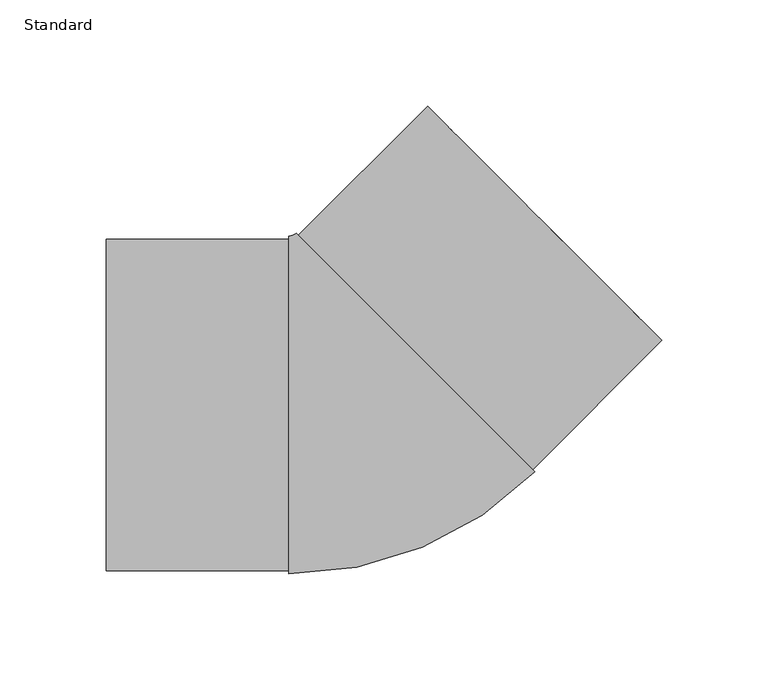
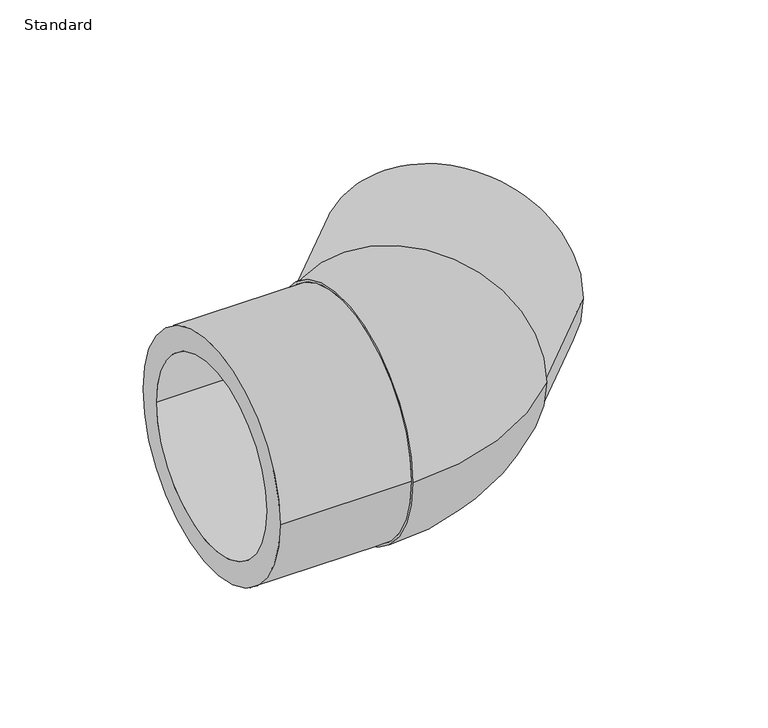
"""IFC4 building model written with IfcOpenShell, lengths in millimetres: pipe fitting geometry, EGB_VASEN_ PPR_Codo a tope 90 WXRB200_Codo a tope 45 WXRB220 : Standard."""

from ifc_helpers import new_model, si_unit, point, frame, origin, place, context, project, spatial, polyline, circle_curve, ellipse_curve, trimmed, source, transform, mapped, element, save
from ifc_brep_helpers import plane_surface, cylinder_surface, revolved_surface, advanced_brep


def standard_db44c1cc(model_context):
    return source(origin(), model_context, "Body", "AdvancedBrep", [
        advanced_brep(
        [(-121.0, -78.0, 0.0), (-121.0, 78.0, 0.0), (-121.0, -62.5, 0.0), (-121.0, 62.5, 0.0), (-34.9299782, -78.0, 0.0), (-34.9299782, 78.0, 0.0), (-34.9299782, -62.5, 0.0), (-34.9299782, 62.5, 0.0), (-34.9299782, -79.5, 0.0), (-34.9299782, 79.5, 0.0), (80.9142136, -31.5157646, 0.0), (-31.5157646, 80.9142136, 0.0), (79.8535534, -30.4551045, 0.0), (-30.4551045, 79.8535534, 0.0), (68.8933983, -19.4949494, 0.0), (-19.4949494, 68.8933983, 0.0), (140.7142495, 30.4055916, 0.0), (30.4055916, 140.7142495, 0.0), (129.7540943, 41.3657467, 0.0), (41.3657467, 129.7540943, 0.0)],
        [
            (0, 1, circle_curve(frame((-121.0, 0.0, 0.0), z_axis=(-1.0, 0.0, 0.0), x_axis=(0.0, 1.0, 0.0)), 78.0)),
            (1, 0, circle_curve(frame((-121.0, 0.0, 0.0), z_axis=(-1.0, 0.0, 0.0), x_axis=(0.0, 1.0, 0.0)), 78.0)),
            (2, 3, circle_curve(frame((-121.0, 0.0, 0.0), z_axis=(1.0, 0.0, 0.0), x_axis=(0.0, 1.0, 0.0)), 62.5)),
            (3, 2, circle_curve(frame((-121.0, 0.0, 0.0), z_axis=(1.0, 0.0, 0.0), x_axis=(0.0, 1.0, 0.0)), 62.5)),
            (0, 4),
            (4, 5, circle_curve(frame((-34.9299782, 0.0, 0.0), z_axis=(-1.0, 0.0, 0.0), x_axis=(0.0, 1.0, 0.0)), 78.0)),
            (5, 1),
            (5, 4, circle_curve(frame((-34.9299782, 0.0, 0.0), z_axis=(-1.0, 0.0, 0.0), x_axis=(0.0, 1.0, 0.0)), 78.0)),
            (2, 6),
            (6, 7, circle_curve(frame((-34.9299782, 0.0, 0.0), z_axis=(1.0, 0.0, 0.0), x_axis=(0.0, 1.0, 0.0)), 62.5)),
            (7, 3),
            (7, 6, circle_curve(frame((-34.9299782, 0.0, 0.0), z_axis=(1.0, 0.0, 0.0), x_axis=(0.0, 1.0, 0.0)), 62.5)),
            (8, 9, circle_curve(frame((-34.9299782, 0.0, 0.0), z_axis=(-1.0, 0.0, 0.0), x_axis=(0.0, 1.0, 0.0)), 79.5)),
            (9, 8, circle_curve(frame((-34.9299782, 0.0, 0.0), z_axis=(-1.0, 0.0, 0.0), x_axis=(0.0, 1.0, 0.0)), 79.5)),
            (10, 11, circle_curve(frame((24.6992245, 24.6992245, 0.0), z_axis=(0.7071067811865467, 0.7071067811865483, 0.0), x_axis=(-0.7071067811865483, 0.7071067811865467, 0.0)), 79.5)),
            (11, 10, circle_curve(frame((24.6992245, 24.6992245, 0.0), z_axis=(0.7071067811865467, 0.7071067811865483, 0.0), x_axis=(-0.7071067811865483, 0.7071067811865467, 0.0)), 79.5)),
            (12, 13, circle_curve(frame((24.6992245, 24.6992245, 0.0), z_axis=(-0.7071067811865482, -0.7071067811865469, 0.0), x_axis=(-0.7071067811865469, 0.7071067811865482, 0.0)), 78.0)),
            (13, 12, circle_curve(frame((24.6992245, 24.6992245, 0.0), z_axis=(-0.7071067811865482, -0.7071067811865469, 0.0), x_axis=(-0.7071067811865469, 0.7071067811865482, 0.0)), 78.0)),
            (14, 15, circle_curve(frame((24.6992245, 24.6992245, 0.0), z_axis=(0.7071067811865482, 0.7071067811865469, 0.0), x_axis=(-0.7071067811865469, 0.7071067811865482, 0.0)), 62.5)),
            (15, 14, circle_curve(frame((24.6992245, 24.6992245, 0.0), z_axis=(0.7071067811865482, 0.7071067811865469, 0.0), x_axis=(-0.7071067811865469, 0.7071067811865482, 0.0)), 62.5)),
            (8, 10, circle_curve(frame((-34.9299782, 84.3284271, 0.0), z_axis=(0.0, 0.0, 1.0), x_axis=(0.0, -1.0, 0.0)), 163.8284271)),
            (11, 9, circle_curve(frame((-34.9299782, 84.3284271, 0.0), z_axis=(0.0, 0.0, -1.0), x_axis=(0.0, -1.0, 0.0)), 4.8284271)),
            (16, 17, circle_curve(frame((85.5599205, 85.5599205, 0.0), z_axis=(0.7071067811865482, 0.7071067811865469, 0.0), x_axis=(-0.7071067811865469, 0.7071067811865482, 0.0)), 78.0)),
            (17, 16, circle_curve(frame((85.5599205, 85.5599205, 0.0), z_axis=(0.7071067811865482, 0.7071067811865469, 0.0), x_axis=(-0.7071067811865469, 0.7071067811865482, 0.0)), 78.0)),
            (18, 19, circle_curve(frame((85.5599205, 85.5599205, 0.0), z_axis=(-0.7071067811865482, -0.7071067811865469, 0.0), x_axis=(-0.7071067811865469, 0.7071067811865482, 0.0)), 62.5)),
            (19, 18, circle_curve(frame((85.5599205, 85.5599205, 0.0), z_axis=(-0.7071067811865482, -0.7071067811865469, 0.0), x_axis=(-0.7071067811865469, 0.7071067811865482, 0.0)), 62.5)),
            (17, 13),
            (12, 16),
            (19, 15),
            (14, 18),
        ],
        [
            plane_surface(frame((-121.0, 0.0, 0.0), z_axis=(-1.0, 0.0, 0.0), x_axis=(0.0, 0.0, 1.0))),
            cylinder_surface(frame((-121.0, 0.0, 0.0), z_axis=(-1.0, 0.0, 0.0), x_axis=(0.0, 1.0, 0.0)), 78.0),
            revolved_surface(polyline([(-34.929978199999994, 62.5, 0.0), (-121.0, 62.5, 0.0)]), (-121.0, 0.0, 0.0), (1.0, 0.0, 0.0)),
            plane_surface(frame((-34.9299782, 0.0, 0.0), z_axis=(-1.0, 0.0, 0.0), x_axis=(0.0, 0.0, 1.0))),
            plane_surface(frame((24.6992245, 24.6992245, 0.0), z_axis=(0.7071067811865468, 0.7071067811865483, 0.0), x_axis=(0.0, 0.0, 1.0))),
            revolved_surface(trimmed(ellipse_curve(frame((-34.9299782, 0.0, 0.0), z_axis=(-1.0, 0.0, 0.0), x_axis=(0.0, 1.0, 0.0)), 79.5, 79.5), [point((-34.9299782, -79.5, 0.0))], [point((-34.9299782, 79.5, 0.0))], True, "CARTESIAN"), (-34.9299782, 84.3284271, 0.0), (0.0, 0.0, 1.0)),
            revolved_surface(trimmed(ellipse_curve(frame((-34.9299782, 0.0, 0.0), z_axis=(-1.0, 0.0, 0.0), x_axis=(0.0, 1.0, 0.0)), 79.5, 79.5), [point((-34.9299782, 79.5, 0.0))], [point((-34.9299782, -79.5, 0.0))], True, "CARTESIAN"), (-34.9299782, 84.3284271, 0.0), (0.0, 0.0, 1.0)),
            plane_surface(frame((85.5599205, 85.5599205, 0.0), z_axis=(0.7071067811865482, 0.7071067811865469, 0.0), x_axis=(0.0, 0.0, 1.0))),
            cylinder_surface(frame((24.6992245, 24.6992245, 0.0), z_axis=(-0.7071067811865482, -0.7071067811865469, 0.0), x_axis=(-0.7071067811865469, 0.7071067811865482, 0.0)), 78.0),
            revolved_surface(polyline([(41.365746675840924, 129.75409432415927, 0.0), (-19.49494937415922, 68.89339827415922, 0.0)]), (24.6992245, 24.6992245, 0.0), (0.7071067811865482, 0.7071067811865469, 0.0)),
        ],
        [
            (0, [[1, 2], [3, 4]]),
            (1, [[-1, 5, 6, 7]]),
            (1, [[-2, -7, 8, -5]]),
            (2, [[-3, 9, 10, 11]]),
            (2, [[-4, -11, 12, -9]]),
            (3, [[-10, -12]]),
            (3, [[13, 14], [-6, -8]]),
            (4, [[15, 16], [17, 18]]),
            (4, [[19, 20]]),
            (5, [[-13, 21, -16, 22]]),
            (6, [[-14, -22, -15, -21]]),
            (7, [[23, 24], [25, 26]]),
            (8, [[-24, 27, -17, 28]]),
            (8, [[-23, -28, -18, -27]]),
            (9, [[-26, 29, -19, 30]]),
            (9, [[-25, -30, -20, -29]]),
        ],
    ),
    ])


if __name__ == "__main__":
    model = new_model("IFC4")
    model_context = context("Model", 3, world=origin())
    ifc_project = project(units=[si_unit("LENGTHUNIT", "METRE", prefix="MILLI")], contexts=[model_context])
    site = spatial("IfcSite", under=ifc_project)
    building = spatial("IfcBuilding", under=site)
    placement = place(None, origin())
    standard_shape = standard_db44c1cc(model_context)
    element("IfcPipeFitting", 1, ObjectType="EGB_VASEN_ PPR_Codo a tope 90 WXRB200_Codo a tope 45 WXRB220 : Standard", at=placement, inside=building, context=model_context, shape_type="MappedRepresentation", body=[
        mapped(standard_shape, transform((0.0, 0.0, 0.0), x_axis=(1.0, 0.0, 0.0), y_axis=(0.0, 1.0, 0.0), z_axis=(0.0, 0.0, 1.0))),
    ])
    save(model, "model.ifc")
